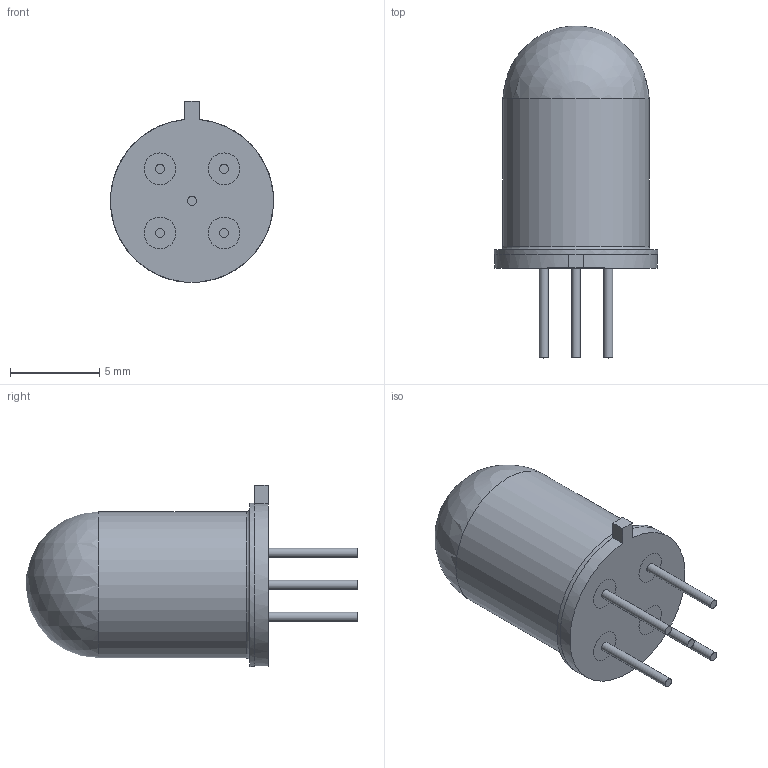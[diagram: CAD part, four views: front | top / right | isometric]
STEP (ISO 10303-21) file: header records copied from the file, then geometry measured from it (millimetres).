
FILE_DESCRIPTION (( 'STEP AP214' ), '1' );
FILE_NAME ('0717-4318-99.STEP', '2023-06-09T20:31:54', ( '' ), ( '' ), 'SwSTEP 2.0', 'SolidWorks 2022', '' );
FILE_SCHEMA (( 'AUTOMOTIVE_DESIGN' ));
Length unit declared in the file: millimetre
Products named in the file (1): 0717-4318-99
Bounding box: 9.14 x 18.59 x 10.14 mm (x, y, z)
Volume: 663.3 mm3; surface area: 472.5 mm2
Topology: 1 solids, 1 shells, 26 faces, 46 edges, 30 vertices
Faces by surface type: plane 16, cylinder 8, sphere 1, torus 1
Full cylindrical faces by diameter (mm): 0.508 x5, 8.192 x1, 9.144 x1
Entity records: 646 total; most frequent: DIRECTION 110, CARTESIAN_POINT 89, ORIENTED_EDGE 68, AXIS2_PLACEMENT_3D 49, EDGE_LOOP 44, EDGE_CURVE 34, FACE_OUTER_BOUND 34, VERTEX_POINT 28
